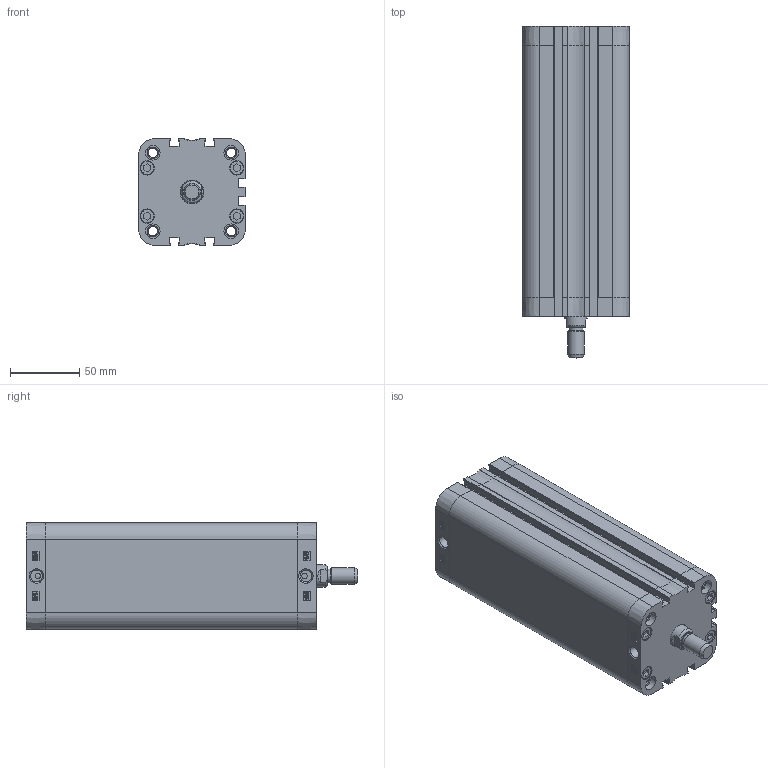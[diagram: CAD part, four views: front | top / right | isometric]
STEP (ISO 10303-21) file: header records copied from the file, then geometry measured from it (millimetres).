
FILE_DESCRIPTION((''),'2;1');
FILE_NAME('T:\Archivio Inventor\- CATALOGHI 2012\SERIE P - NUOVA\PDM\PDM063\PDM063.---.GS.M\PDM063.160.GS.M.stp','2013-02-04T09:32:00',('Administrator'),(''),'Autodesk Inventor 2012','Autodesk Inventor 2012','');
FILE_SCHEMA(('CONFIG_CONTROL_DESIGN'));
Length unit declared in the file: millimetre
Products named in the file (1): PDM063.160.GS.M
Bounding box: 77 x 239 x 77 mm (x, y, z)
Volume: 470715.8 mm3; surface area: 184264.5 mm2
Topology: 1 solids, 5 shells, 824 faces, 1993 edges, 1252 vertices
Faces by surface type: plane 346, bspline 218, cylinder 142, torus 55, cone 45, sphere 18
Full cylindrical faces by diameter (mm): 4 x2, 6.3 x4, 6.647 x8, 8.047 x4, 8.566 x2, 9.8 x8, 10 x1, 10.3 x8, 10.5 x8, 12 x2, 16 x1, 16.5 x1, 63 x1, 65.4 x1, 65.6 x1
Entity records: 27360 total; most frequent: CARTESIAN_POINT 9112, ORIENTED_EDGE 3744, DIRECTION 3031, EDGE_CURVE 1872, VERTEX_POINT 1231, AXIS2_PLACEMENT_3D 1026, EDGE_LOOP 1003, VECTOR 979
